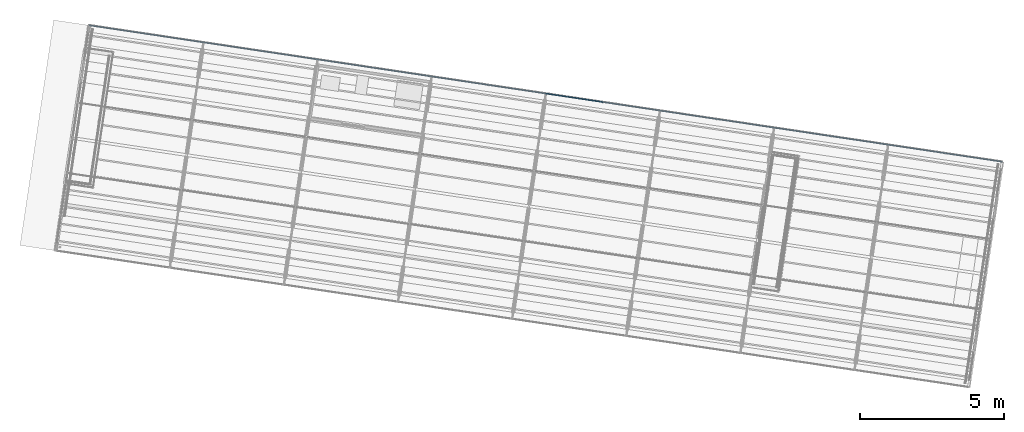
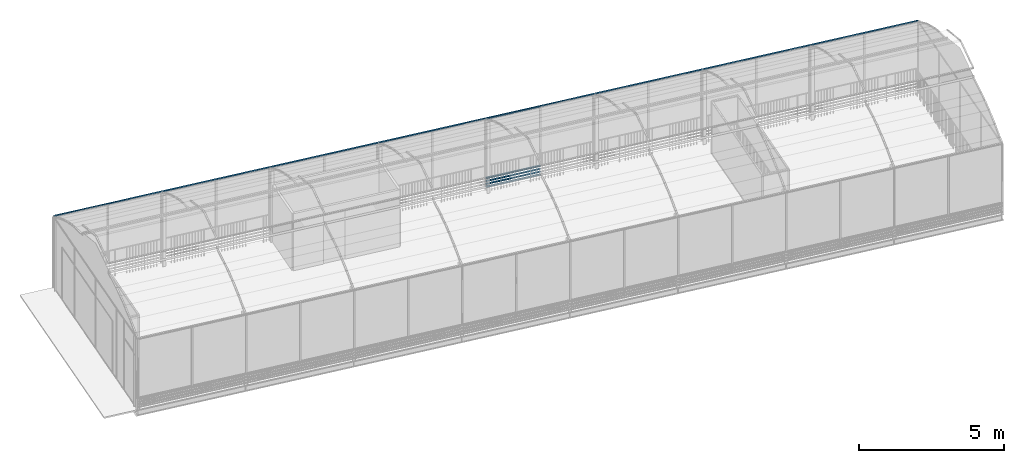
# One storey, part 15 of 34: 7 members, 1 element without a shape of its own.
"""IFC4 building model written with IfcOpenShell, lengths in metres."""

import ifcopenshell
import ifcopenshell.guid

model = None  # the IFC model being written
_history = None  # IfcOwnerHistory: only IFC2X3 demands one
_inside = {}  # id of a spatial element -> (the spatial element, [elements in it])
_under = {}  # id of a project, library or spatial element -> (it, [spatial elements below it])
_declared = {}  # id of a project -> (the project, [libraries it declares])
_typed = {}  # id of a type object -> (the type object, [elements of that type])
_made_of = {}  # id of a material, layer set ... -> (it, [elements and type objects made of it])


def new_model(schema):
    """Start an empty IFC model of exactly this schema.

    Asked for "IFC4X3", IfcOpenShell would pick the latest addendum, in which some entities
    have other attributes; the version numbers below select the first issue.
    IFC2X3 requires an IfcOwnerHistory on every rooted entity: one is made here for all.
    """
    global model, _history
    if schema == "IFC4X3":
        model = ifcopenshell.file(schema_version=(4, 3, 0, 0))
    else:
        model = ifcopenshell.file(schema=schema)
    _inside.clear()
    _under.clear()
    _declared.clear()
    _typed.clear()
    _made_of.clear()
    _history = None
    if model.schema == "IFC2X3":
        org = make("IfcOrganization", Name="unknown")
        user = make(
            "IfcPersonAndOrganization",
            ThePerson=make("IfcPerson", FamilyName="unknown"),
            TheOrganization=org,
        )
        app = make(
            "IfcApplication",
            ApplicationDeveloper=org,
            Version="unknown",
            ApplicationFullName="unknown",
            ApplicationIdentifier="unknown",
        )
        _history = make(
            "IfcOwnerHistory",
            OwningUser=user,
            OwningApplication=app,
            ChangeAction="ADDED",
            CreationDate=0,
        )
    return model


def make(cls, **values):
    """One entity of the class cls with the attributes given. An attribute that is None is left unset."""
    return model.create_entity(
        cls, **{name: value for name, value in values.items() if value is not None}
    )


def rooted(cls, **values):
    """An entity with a GlobalId (a new one), such as an element, a storey or a relation."""
    return make(cls, GlobalId=ifcopenshell.guid.new(), OwnerHistory=_history, **values)


def si_unit(unit_type, name, prefix=None):
    """IfcSIUnit, for example si_unit("LENGTHUNIT", "METRE", prefix="MILLI")."""
    return make("IfcSIUnit", UnitType=unit_type, Prefix=prefix, Name=name)


def assignment(units):
    """IfcUnitAssignment: the units of a project."""
    return None if units is None else make("IfcUnitAssignment", Units=units)


def point(xyz):
    """IfcCartesianPoint."""
    return None if xyz is None else make("IfcCartesianPoint", Coordinates=xyz)


def direction(xyz):
    """IfcDirection."""
    return None if xyz is None else make("IfcDirection", DirectionRatios=xyz)


def frame(location, z_axis=None, x_axis=None):
    """IfcAxis2Placement3D, a coordinate frame: its origin and axes. An axis left out is left unset."""
    return make(
        "IfcAxis2Placement3D",
        Location=point(location),
        Axis=direction(z_axis),
        RefDirection=direction(x_axis),
    )


def origin_with_axes():
    """The frame at (0, 0, 0) with the z axis (0, 0, 1) and the x axis (1, 0, 0) written out."""
    return frame((0.0, 0.0, 0.0), z_axis=(0.0, 0.0, 1.0), x_axis=(1.0, 0.0, 0.0))


def place(relative_to, where):
    """IfcLocalPlacement: puts the frame where relative to a parent placement (None: the world)."""
    return make(
        "IfcLocalPlacement", PlacementRelTo=relative_to, RelativePlacement=where
    )


def context(
    kind, dimensions, precision=None, world=None, true_north=None, identifier=None
):
    """IfcGeometricRepresentationContext, for example the 3D "Model" context."""
    return make(
        "IfcGeometricRepresentationContext",
        ContextIdentifier=identifier,
        ContextType=kind,
        CoordinateSpaceDimension=dimensions,
        Precision=precision,
        WorldCoordinateSystem=world,
        TrueNorth=true_north,
    )


def subcontext(parent, identifier, kind, view, scale=None):
    """IfcGeometricRepresentationSubContext, for example "Body" below "Model"."""
    return make(
        "IfcGeometricRepresentationSubContext",
        ContextIdentifier=identifier,
        ContextType=kind,
        ParentContext=parent,
        TargetScale=scale,
        TargetView=view,
    )


def project(units=None, contexts=None):
    """IfcProject with its units and contexts."""
    return rooted(
        "IfcProject",
        Name="project",
        RepresentationContexts=contexts,
        UnitsInContext=assignment(units),
    )


def spatial(cls, under=None, at=None, **own):
    """A site, building, storey or space (cls), placed at a placement, below another one or the project."""
    s = rooted(cls, ObjectPlacement=at, **own)
    if under is not None:
        _under.setdefault(under.id(), (under, []))[1].append(s)
    return s


def profile(cls, at=None, kind="AREA", **sizes):
    """A parametric profile (cls). Its sizes go by their IFC names, for example OverallWidth=200.0."""
    return make(cls, ProfileType=kind, Position=at, **sizes)


def rectangle(**sizes):
    """IfcRectangleProfileDef."""
    return profile("IfcRectangleProfileDef", **sizes)


def extrude(swept, where, along, depth):
    """IfcExtrudedAreaSolid: the profile swept, set in the frame where, extruded along a direction by depth."""
    return make(
        "IfcExtrudedAreaSolid",
        SweptArea=swept,
        Position=where,
        ExtrudedDirection=direction(along),
        Depth=depth,
    )


def shape(context_of_items, identifier, shape_type, items):
    """IfcShapeRepresentation: the items that make up one representation, for example the "Body"."""
    return make(
        "IfcShapeRepresentation",
        ContextOfItems=context_of_items,
        RepresentationIdentifier=identifier,
        RepresentationType=shape_type,
        Items=items,
    )


def material(Name=None, Category=None):
    """IfcMaterial."""
    return make("IfcMaterial", Name=Name, Category=Category)


def material_profile(
    of_material, cross_section, Name=None, Category=None, Priority=None
):
    """IfcMaterialProfile: a cross section and its material."""
    return make(
        "IfcMaterialProfile",
        Name=Name,
        Material=of_material,
        Profile=cross_section,
        Priority=Priority,
        Category=Category,
    )


def profile_set(profiles, Name=None, composite=None):
    """IfcMaterialProfileSet."""
    return make(
        "IfcMaterialProfileSet",
        Name=Name,
        MaterialProfiles=profiles,
        CompositeProfile=composite,
    )


def profile_usage(for_profile_set, cardinal=None, extent=None):
    """IfcMaterialProfileSetUsage: how a profile set lies along its element."""
    return make(
        "IfcMaterialProfileSetUsage",
        ForProfileSet=for_profile_set,
        CardinalPoint=cardinal,
        ReferenceExtent=extent,
    )


def made_of(thing, what):
    """Note that an element or type object is made of a material, layer set ...; save() writes the relation."""
    if what is not None:
        _made_of.setdefault(what.id(), (what, []))[1].append(thing)
    return thing


def type_object(cls, material=None, **own):
    """A type object (cls), such as IfcWallType, which elements share."""
    return made_of(rooted(cls, **own), material)


def element(
    cls,
    number,
    at=None,
    inside=None,
    cuts=None,
    type_object=None,
    material=None,
    context=None,
    identifier="Body",
    shape_type=None,
    held_by="IfcProductDefinitionShape",
    body=None,
    shapes=None,
    **own,
):
    """One element of the class cls, such as IfcWall. Its Tag is "e" and its number.

    at: its placement. inside: the storey or other place that contains it. cuts: it is an
    opening in that element (IfcRelVoidsElement). A single representation is given by context,
    identifier, shape_type and body (its items); several are given by shapes. held_by: the class
    of the entity that holds the representations. save() writes the other relations.
    """
    e = rooted(cls, Tag="e%d" % number, ObjectPlacement=at, **own)
    if body is not None:
        shapes = [shape(context, identifier, shape_type, body)]
    if shapes is not None:
        e.Representation = make(held_by, Representations=shapes)
    if inside is not None:
        _inside.setdefault(inside.id(), (inside, []))[1].append(e)
    if cuts is not None:
        rooted(
            "IfcRelVoidsElement", RelatingBuildingElement=cuts, RelatedOpeningElement=e
        )
    if type_object is not None:
        _typed.setdefault(type_object.id(), (type_object, []))[1].append(e)
    return made_of(e, material)


def aggregate(whole, parts):
    """IfcRelAggregates: a whole, such as a stair, and the parts it consists of."""
    return rooted("IfcRelAggregates", RelatingObject=whole, RelatedObjects=parts)


def save(model, path):
    """Write the relations noted so far, then the file.

    IfcRelAggregates (storeys below a building ...), IfcRelContainedInSpatialStructure (elements
    in a storey), IfcRelDefinesByType, IfcRelAssociatesMaterial and IfcRelDeclares: one each for
    every whole, place, type object, material and project.
    """
    for whole, parts in _under.values():
        aggregate(whole, parts)
    for where, things in _inside.values():
        rooted(
            "IfcRelContainedInSpatialStructure",
            RelatedElements=things,
            RelatingStructure=where,
        )
    for kind, things in _typed.values():
        rooted("IfcRelDefinesByType", RelatedObjects=things, RelatingType=kind)
    for what, things in _made_of.values():
        rooted("IfcRelAssociatesMaterial", RelatedObjects=things, RelatingMaterial=what)
    for by, libraries in _declared.values():
        rooted("IfcRelDeclares", RelatingContext=by, RelatedDefinitions=libraries)
    model.write(path)


model = new_model("IFC4")

# Units and contexts
model_context = context("Model", 3, precision=1e-05, world=origin_with_axes(), true_north=direction((0.0, 1.0)))
body_context = subcontext(model_context, "Body", "Model", "MODEL_VIEW")
ifc_project = project(units=[si_unit("VOLUMEUNIT", "CUBIC_METRE"), si_unit("LENGTHUNIT", "METRE"), si_unit("AREAUNIT", "SQUARE_METRE")], contexts=[model_context])

# Site, building, storey
site_placement = place(None, origin_with_axes())
site = spatial("IfcSite", under=ifc_project, at=site_placement, Name="Lares · Rua das Mercês · artigo 4771")
building_placement = place(site_placement, frame((15.0, 9.7, 15.8), z_axis=(0.0, 0.0, 1.0), x_axis=(0.989015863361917, -0.147809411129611, 0.0)))
building = spatial("IfcBuilding", under=site, at=building_placement, Name="Casa Sobreposta")
storey_placement = place(building_placement, frame((0.0, 0.0, 3.24), z_axis=(0.0, 0.0, 1.0), x_axis=(1.0, 0.0, 0.0)))
storey = spatial("IfcBuildingStorey", under=building, at=storey_placement, Name="01 · Jardim de inverno", Elevation=19.04)

# Members
ifc_material_1 = material(Name="Aço pintado / Stahl lackiert", Category="steel")
ifc_material_profile = material_profile(ifc_material_1, rectangle(XDim=0.035, YDim=0.035))
ifc_profile_set = profile_set([ifc_material_profile], Name="R0.035")
ifc_profile_usage_1 = profile_usage(ifc_profile_set)
member_type = type_object("IfcMemberType", Name="R0.035 / steel", PredefinedType="NOTDEFINED", material=ifc_profile_set)
member_1_placement = place(storey_placement, frame((16.0, 6.4, 0.5), z_axis=(1.0, 0.0, 0.0), x_axis=(0.0, -1.0, 0.0)))
element("IfcMember", 1, at=member_1_placement, inside=storey, type_object=member_type, material=ifc_profile_usage_1, Name="Estufa norte 9 · travessa", context=body_context, shape_type="SweptSolid", body=[
    extrude(rectangle(XDim=0.035, YDim=0.035), origin_with_axes(), (0.0, 0.0, 1.0), 2.0),
])
ifc_profile_usage_2 = profile_usage(ifc_profile_set)
member_2_placement = place(storey_placement, frame((16.0, 6.4, 2.98), z_axis=(1.0, 0.0, 0.0), x_axis=(0.0, -1.0, 0.0)))
element("IfcMember", 2, at=member_2_placement, inside=storey, type_object=member_type, material=ifc_profile_usage_2, Name="Estufa norte 9 · travessa", context=body_context, shape_type="SweptSolid", body=[
    extrude(rectangle(XDim=0.035, YDim=0.035), origin_with_axes(), (0.0, 0.0, 1.0), 2.0),
])
ifc_profile_usage_3 = profile_usage(ifc_profile_set)
member_3_placement = place(storey_placement, frame((16.0, 6.4, 0.12), z_axis=(1.0, 0.0, 0.0), x_axis=(0.0, -1.0, 0.0)))
element("IfcMember", 3, at=member_3_placement, inside=storey, type_object=member_type, material=ifc_profile_usage_3, Name="Entrada de ar norte 9", context=body_context, shape_type="SweptSolid", body=[
    extrude(rectangle(XDim=0.035, YDim=0.035), origin_with_axes(), (0.0, 0.0, 1.0), 2.0),
])
ifc_profile_usage_4 = profile_usage(ifc_profile_set)
member_4_placement = place(storey_placement, frame((16.0, 6.4, 0.24), z_axis=(1.0, 0.0, 0.0), x_axis=(0.0, -1.0, 0.0)))
element("IfcMember", 4, at=member_4_placement, inside=storey, type_object=member_type, material=ifc_profile_usage_4, Name="Entrada de ar norte 9", context=body_context, shape_type="SweptSolid", body=[
    extrude(rectangle(XDim=0.035, YDim=0.035), origin_with_axes(), (0.0, 0.0, 1.0), 2.0),
])
ifc_profile_usage_5 = profile_usage(ifc_profile_set)
member_5_placement = place(storey_placement, frame((16.0, 6.4, 0.36), z_axis=(1.0, 0.0, 0.0), x_axis=(0.0, -1.0, 0.0)))
element("IfcMember", 5, at=member_5_placement, inside=storey, type_object=member_type, material=ifc_profile_usage_5, Name="Entrada de ar norte 9", context=body_context, shape_type="SweptSolid", body=[
    extrude(rectangle(XDim=0.035, YDim=0.035), origin_with_axes(), (0.0, 0.0, 1.0), 2.0),
])
ifc_profile_usage_6 = profile_usage(ifc_profile_set)
member_6_placement = place(storey_placement, frame((16.0, 6.4, 0.48), z_axis=(1.0, 0.0, 0.0), x_axis=(0.0, -1.0, 0.0)))
element("IfcMember", 6, at=member_6_placement, inside=storey, type_object=member_type, material=ifc_profile_usage_6, Name="Entrada de ar norte 9", context=body_context, shape_type="SweptSolid", body=[
    extrude(rectangle(XDim=0.035, YDim=0.035), origin_with_axes(), (0.0, 0.0, 1.0), 2.0),
])

# Roof, member
ifc_material_2 = material(Name="Vidro / Normalglas", Category="glass")
roof_placement = place(storey_placement, frame((0.0, 0.0, -3.24), z_axis=(0.0, 0.0, 1.0), x_axis=(1.0, 0.0, 0.0)))
roof = element("IfcRoof", 7, at=roof_placement, inside=storey, material=ifc_material_2, Name="Cobertura translúcida da estufa", PredefinedType="BARREL_ROOF")
ifc_profile_usage_7 = profile_usage(ifc_profile_set)
member_7_placement = place(roof_placement, frame((0.0, 6.39999999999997, 6.23430000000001), z_axis=(1.0, 0.0, 0.0), x_axis=(0.0, -1.0, 0.0)))
member_7 = element("IfcMember", 8, at=member_7_placement, type_object=member_type, material=ifc_profile_usage_7, Name="Terça da estufa", context=body_context, shape_type="SweptSolid", body=[
    extrude(rectangle(XDim=0.035, YDim=0.035), origin_with_axes(), (0.0, 0.0, 1.0), 32.0),
])
aggregate(roof, [member_7])

save(model, "model.ifc")
